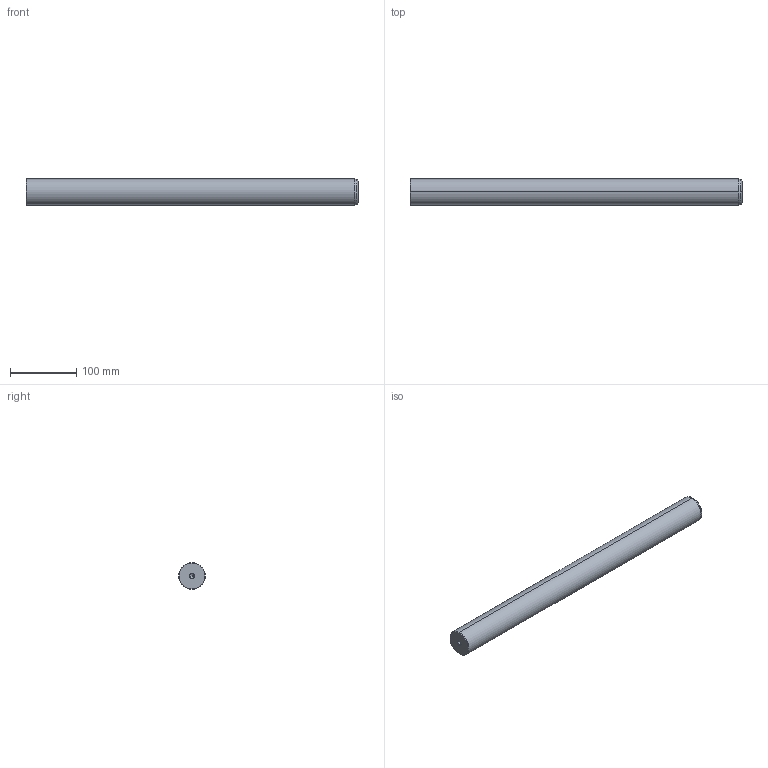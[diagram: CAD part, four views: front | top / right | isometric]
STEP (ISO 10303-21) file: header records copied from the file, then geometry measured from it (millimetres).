
FILE_DESCRIPTION(('CATIA V5 STEP Exchange'),'2;1');
FILE_NAME('C:\Users\Utente\Desktop\IO LAVORO\3D X SITO CF\X SITO\720\720-40x500.stp','2020-12-30T21:53:18+00:00',('none'),('none'),'CATIA Version 5 Release 20 GA (IN-10)','CATIA V5 STEP AP203','none');
FILE_SCHEMA(('CONFIG_CONTROL_DESIGN'));
Length unit declared in the file: millimetre
Products named in the file (1): 720-40x500
Bounding box: 500 x 40 x 40 mm (x, y, z)
Volume: 625944.7 mm3; surface area: 66016 mm2
Topology: 1 solids, 1 shells, 22 faces, 62 edges, 40 vertices
Faces by surface type: cone 12, cylinder 6, plane 2, torus 2
Entity records: 806 total; most frequent: CARTESIAN_POINT 229, ORIENTED_EDGE 116, DIRECTION 93, EDGE_CURVE 58, AXIS2_PLACEMENT_3D 54, VERTEX_POINT 40, CIRCLE 31, EDGE_LOOP 24
